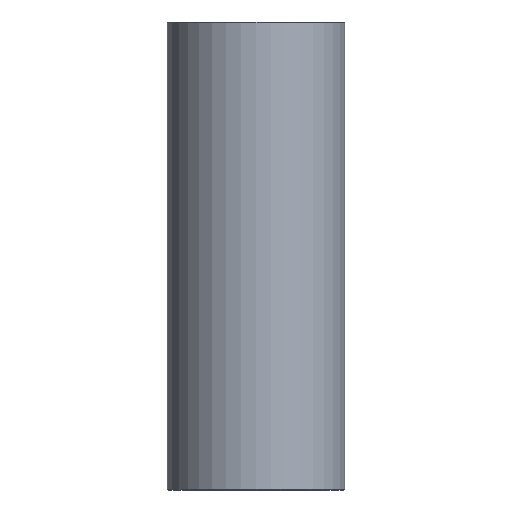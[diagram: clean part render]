
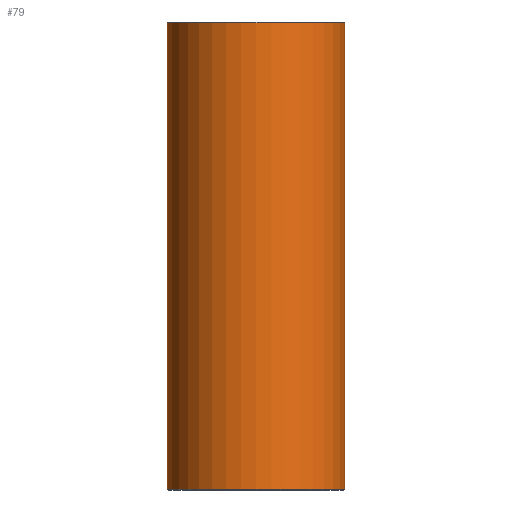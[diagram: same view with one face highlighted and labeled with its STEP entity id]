
A CAD part, front view. The second image highlights one B-rep face of the part: STEP entity #79.
In plain terms, the highlighted cylindrical face has radius 19 mm (diameter 38 mm), a full revolution.
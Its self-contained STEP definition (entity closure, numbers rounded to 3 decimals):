
#79=ADVANCED_FACE('',(#96,#97),#98,.T.);
#96=FACE_OUTER_BOUND('',#120,.T.);
#97=FACE_OUTER_BOUND('',#121,.T.);
#98=CYLINDRICAL_SURFACE('',#122,19.0);
#120=EDGE_LOOP('',(#152));
#121=EDGE_LOOP('',(#153));
#122=AXIS2_PLACEMENT_3D('',#154,#155,#156);
#152=ORIENTED_EDGE('',*,*,#178,.T.);
#153=ORIENTED_EDGE('',*,*,#177,.T.);
#154=CARTESIAN_POINT('',(0.0,0.0,100.0));
#155=DIRECTION('',(0.0,0.0,-1.0));
#156=DIRECTION('',(-1.0,0.0,0.0));
#177=EDGE_CURVE('',#190,#190,#191,.T.);
#178=EDGE_CURVE('',#192,#192,#193,.F.);
#190=VERTEX_POINT('',#206);
#191=CIRCLE('',#207,19.0);
#192=VERTEX_POINT('',#208);
#193=CIRCLE('',#209,19.0);
#206=CARTESIAN_POINT('',(19.0,0.0,0.2));
#207=AXIS2_PLACEMENT_3D('',#227,#228,#229);
#208=CARTESIAN_POINT('',(19.0,0.,99.8));
#209=AXIS2_PLACEMENT_3D('',#230,#231,#232);
#227=CARTESIAN_POINT('',(0.0,0.0,0.2));
#228=DIRECTION('',(0.0,0.0,1.0));
#229=DIRECTION('',(1.0,0.0,0.0));
#230=CARTESIAN_POINT('',(0.0,0.0,99.8));
#231=DIRECTION('',(0.0,0.0,1.0));
#232=DIRECTION('',(1.0,0.0,0.0));
